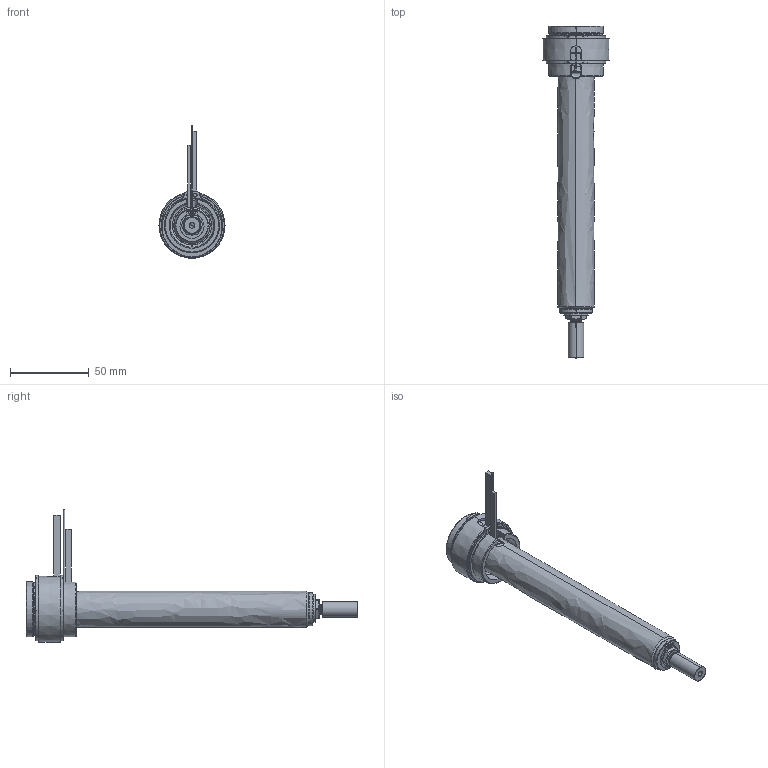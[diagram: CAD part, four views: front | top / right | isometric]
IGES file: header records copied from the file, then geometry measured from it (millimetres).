
Start section: SolidWorks IGES file using analytic representation for surfaces
Global section: file name: C:\Users\luca.EMPAD\Desktop\TEM\UGBE3504-S-A-P-3 [Ød-1.0 P-20 ØC-7.0].IGS; native system: SolidWorks 2012; preprocessor: SolidWorks 2012; author: luca; date: 120330.140626; units: millimetre
Bounding box: 42 x 211 x 84.4 mm (x, y, z)
Surface area: 36603.1 mm2 (no closed solid volume)
Topology: 0 solids, 0 shells, 188 faces, 3506 edges, 3506 vertices
Faces by surface type: revolution 119, bspline 69
